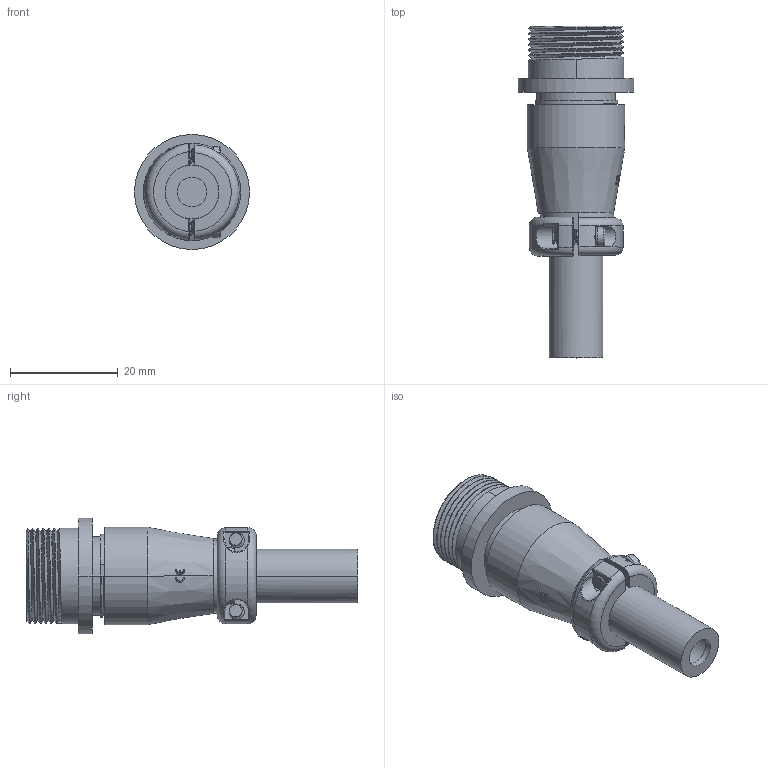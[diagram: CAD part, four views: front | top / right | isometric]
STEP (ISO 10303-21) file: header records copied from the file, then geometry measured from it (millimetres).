
FILE_DESCRIPTION((''),'2;1');
FILE_NAME('WS16K2ZQ','2021-01-21T',('Administrator'),(''),'CREO PARAMETRIC BY PTC INC, 2016130','CREO PARAMETRIC BY PTC INC, 2016130','');
FILE_SCHEMA(('CONFIG_CONTROL_DESIGN'));
Length unit declared in the file: millimetre
Products named in the file (1): WS16K2ZQ
Bounding box: 21.4 x 61.67 x 21.4 mm (x, y, z)
Volume: 9451.1 mm3; surface area: 6003 mm2
Topology: 1 solids, 3 shells, 448 faces, 1309 edges, 888 vertices
Faces by surface type: cylinder 146, plane 146, bspline 72, cone 56, torus 24, extrusion 3, sphere 1
Entity records: 27281 total; most frequent: CARTESIAN_POINT 16364, ORIENTED_EDGE 2618, DIRECTION 1802, EDGE_CURVE 1309, VERTEX_POINT 888, AXIS2_PLACEMENT_3D 708, B_SPLINE_CURVE_WITH_KNOTS 594, EDGE_LOOP 479
